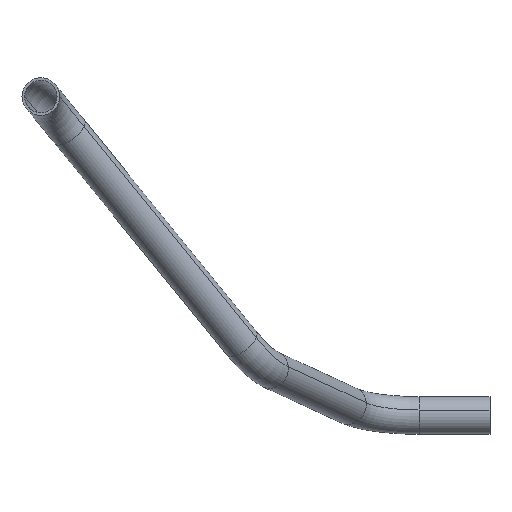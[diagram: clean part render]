
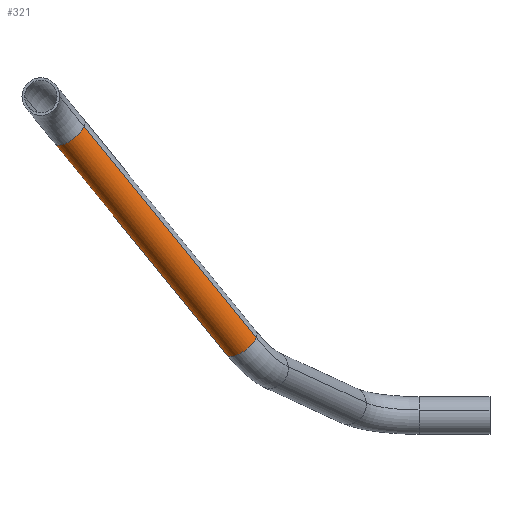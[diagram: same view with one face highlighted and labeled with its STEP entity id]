
A CAD part, left-side view. The second image highlights one B-rep face of the part: STEP entity #321.
In plain terms, the highlighted cylindrical face has radius 11 mm (diameter 22 mm), a partial arc.
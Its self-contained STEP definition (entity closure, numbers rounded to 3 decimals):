
#167=AXIS2_PLACEMENT_3D('Cylinder Axis2P3D',#164,#165,#166) ;
#300=AXIS2_PLACEMENT_3D('Circle Axis2P3D',#298,#299,$) ;
#312=AXIS2_PLACEMENT_3D('Circle Axis2P3D',#310,#311,$) ;
#142=CARTESIAN_POINT('Vertex',(-13985.688,969.814,350.978)) ;
#144=CARTESIAN_POINT('Vertex',(-13998.369,953.003,357.346)) ;
#164=CARTESIAN_POINT('Axis2P3D Location',(-14027.68,1011.67,415.854)) ;
#173=CARTESIAN_POINT('Vertex',(-14056.991,1070.338,474.363)) ;
#175=CARTESIAN_POINT('Vertex',(-14069.673,1053.526,480.731)) ;
#178=CARTESIAN_POINT('Line Origine',(-14034.021,1003.265,419.039)) ;
#183=CARTESIAN_POINT('Line Origine',(-14021.34,1020.076,412.67)) ;
#298=CARTESIAN_POINT('Axis2P3D Location',(-13992.028,961.409,354.162)) ;
#310=CARTESIAN_POINT('Axis2P3D Location',(-14063.332,1061.932,477.547)) ;
#165=DIRECTION('Axis2P3D Direction',(0.409,-0.576,-0.708)) ;
#166=DIRECTION('Axis2P3D XDirection',(0.576,0.764,-0.289)) ;
#179=DIRECTION('Vector Direction',(0.409,-0.576,-0.708)) ;
#184=DIRECTION('Vector Direction',(0.409,-0.576,-0.708)) ;
#299=DIRECTION('Axis2P3D Direction',(0.409,-0.576,-0.708)) ;
#311=DIRECTION('Axis2P3D Direction',(0.409,-0.576,-0.708)) ;
#180=VECTOR('Line Direction',#179,1.) ;
#185=VECTOR('Line Direction',#184,1.) ;
#316=ORIENTED_EDGE('',*,*,#314,.T.) ;
#317=ORIENTED_EDGE('',*,*,#187,.F.) ;
#318=ORIENTED_EDGE('',*,*,#302,.F.) ;
#319=ORIENTED_EDGE('',*,*,#182,.T.) ;
#321=ADVANCED_FACE('( + ) PartBody',(#320),#168,.T.) ;
#301=CIRCLE('generated circle',#300,11.) ;
#313=CIRCLE('generated circle',#312,11.) ;
#168=CYLINDRICAL_SURFACE('generated cylinder',#167,11.) ;
#182=EDGE_CURVE('',#145,#176,#181,.F.) ;
#187=EDGE_CURVE('',#143,#174,#186,.F.) ;
#302=EDGE_CURVE('',#145,#143,#301,.T.) ;
#314=EDGE_CURVE('',#176,#174,#313,.T.) ;
#315=EDGE_LOOP('',(#316,#317,#318,#319)) ;
#320=FACE_OUTER_BOUND('',#315,.T.) ;
#181=LINE('Line',#178,#180) ;
#186=LINE('Line',#183,#185) ;
#143=VERTEX_POINT('',#142) ;
#145=VERTEX_POINT('',#144) ;
#174=VERTEX_POINT('',#173) ;
#176=VERTEX_POINT('',#175) ;
